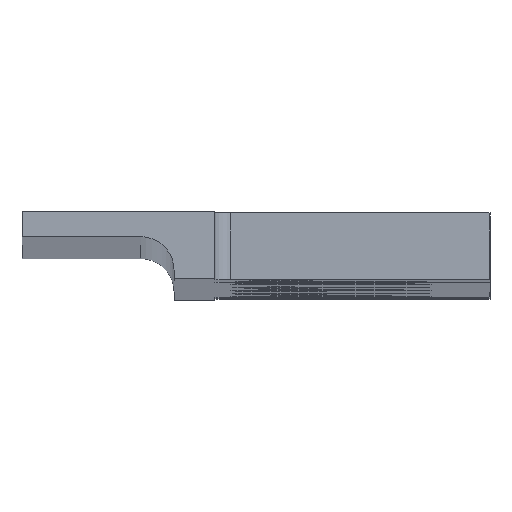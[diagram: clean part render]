
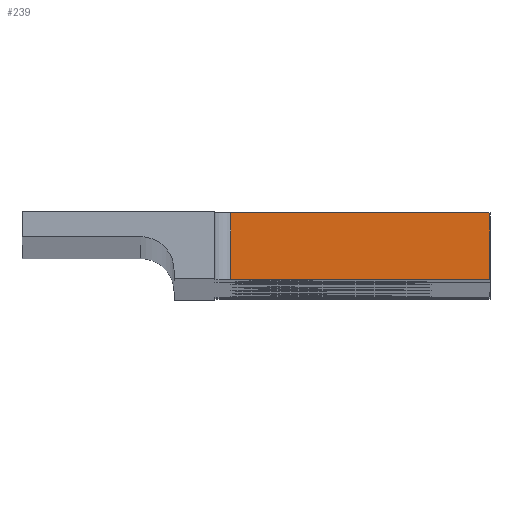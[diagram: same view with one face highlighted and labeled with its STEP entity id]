
A CAD part, top view. The second image highlights one B-rep face of the part: STEP entity #239.
In plain terms, the highlighted planar face has unit normal (0, 0, 1).
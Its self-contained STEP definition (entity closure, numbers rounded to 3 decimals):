
#38=PLANE('',#1030);
#61=FACE_OUTER_BOUND('',#396,.T.);
#95=LINE('',#1465,#156);
#96=LINE('',#1471,#157);
#97=LINE('',#1473,#158);
#98=LINE('',#1475,#159);
#156=VECTOR('',#1181,1.);
#157=VECTOR('',#1188,1.);
#158=VECTOR('',#1189,1.);
#159=VECTOR('',#1190,1.);
#239=ADVANCED_FACE('',(#61),#38,.F.);
#396=EDGE_LOOP('',(#532,#533,#534,#535));
#532=ORIENTED_EDGE('',*,*,#856,.F.);
#533=ORIENTED_EDGE('',*,*,#853,.T.);
#534=ORIENTED_EDGE('',*,*,#857,.F.);
#535=ORIENTED_EDGE('',*,*,#858,.F.);
#755=VERTEX_POINT('',#1466);
#756=VERTEX_POINT('',#1467);
#757=VERTEX_POINT('',#1472);
#758=VERTEX_POINT('',#1474);
#853=EDGE_CURVE('',#755,#756,#95,.T.);
#856=EDGE_CURVE('',#755,#757,#96,.T.);
#857=EDGE_CURVE('',#758,#756,#97,.T.);
#858=EDGE_CURVE('',#757,#758,#98,.T.);
#1030=AXIS2_PLACEMENT_3D('',#1476,#1191,#1192);
#1181=DIRECTION('',(0.,-1.,0.));
#1188=DIRECTION('',(1.,0.,0.));
#1189=DIRECTION('',(-1.,0.,0.));
#1190=DIRECTION('',(0.,-1.,0.));
#1191=DIRECTION('',(0.,0.,-1.));
#1192=DIRECTION('',(0.,1.,0.));
#1465=CARTESIAN_POINT('',(-85.,17.897,385.15));
#1466=CARTESIAN_POINT('',(-85.,20.1,385.15));
#1467=CARTESIAN_POINT('',(-85.,18.1,385.15));
#1471=CARTESIAN_POINT('',(-76.5,20.1,385.15));
#1472=CARTESIAN_POINT('',(-77.25,20.1,385.15));
#1473=CARTESIAN_POINT('',(-76.5,18.1,385.15));
#1474=CARTESIAN_POINT('',(-77.25,18.1,385.15));
#1475=CARTESIAN_POINT('',(-77.25,17.897,385.15));
#1476=CARTESIAN_POINT('',(-76.5,17.897,385.15));
